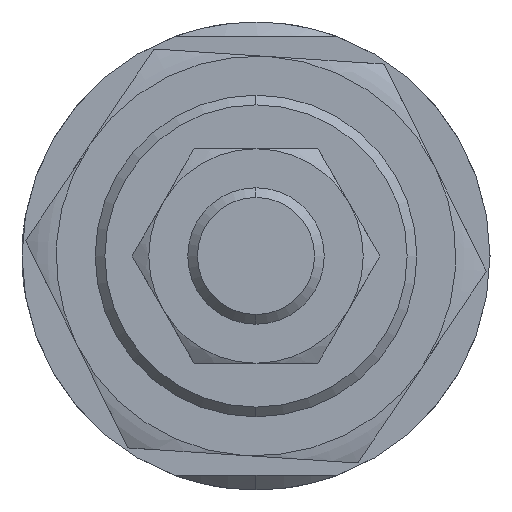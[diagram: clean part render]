
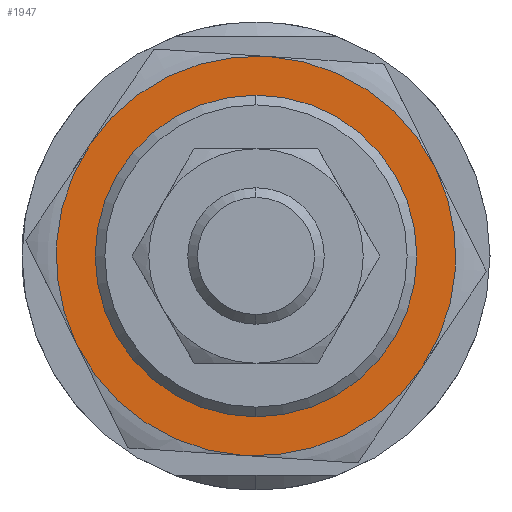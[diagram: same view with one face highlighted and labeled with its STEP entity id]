
A CAD part, left-side view. The second image highlights one B-rep face of the part: STEP entity #1947.
In plain terms, the highlighted planar face has unit normal (-1, 0, 0) as drawn and (0, 0, -1) by its records, which use the part's own axes.
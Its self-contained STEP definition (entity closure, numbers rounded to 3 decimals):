
#31 = VERTEX_POINT ( 'NONE', #1975 ) ;
#56 = ORIENTED_EDGE ( 'NONE', *, *, #1483, .F. ) ;
#87 = CARTESIAN_POINT ( 'NONE',  ( 0., 0., -5.5 ) ) ;
#126 = AXIS2_PLACEMENT_3D ( 'NONE', #1206, #3006, #1474 ) ;
#129 = CIRCLE ( 'NONE', #3128, 20.5 ) ;
#153 = DIRECTION ( 'NONE',  ( 1., 0., 0. ) ) ;
#167 = PLANE ( 'NONE',  #1503 ) ;
#296 = ORIENTED_EDGE ( 'NONE', *, *, #2409, .F. ) ;
#329 = ORIENTED_EDGE ( 'NONE', *, *, #1777, .T. ) ;
#364 = CARTESIAN_POINT ( 'NONE',  ( -10.25, 17.754, -5.5 ) ) ;
#488 = VERTEX_POINT ( 'NONE', #364 ) ;
#576 = EDGE_CURVE ( 'NONE', #2313, #852, #892, .T. ) ;
#670 = AXIS2_PLACEMENT_3D ( 'NONE', #1798, #2833, #735 ) ;
#681 = AXIS2_PLACEMENT_3D ( 'NONE', #2398, #1921, #2215 ) ;
#728 = VERTEX_POINT ( 'NONE', #2291 ) ;
#729 = AXIS2_PLACEMENT_3D ( 'NONE', #2136, #1626, #2148 ) ;
#735 = DIRECTION ( 'NONE',  ( 1., 0., 0. ) ) ;
#766 = CARTESIAN_POINT ( 'NONE',  ( -10.25, -17.754, -5.5 ) ) ;
#796 = CIRCLE ( 'NONE', #1245, 20.5 ) ;
#847 = DIRECTION ( 'NONE',  ( 0., 0., 1. ) ) ;
#852 = VERTEX_POINT ( 'NONE', #766 ) ;
#892 = CIRCLE ( 'NONE', #126, 20.5 ) ;
#893 = DIRECTION ( 'NONE',  ( 1., 0., 0. ) ) ;
#1038 = AXIS2_PLACEMENT_3D ( 'NONE', #2919, #2654, #1388 ) ;
#1081 = EDGE_CURVE ( 'NONE', #1299, #2029, #129, .T. ) ;
#1107 = EDGE_CURVE ( 'NONE', #728, #1299, #796, .T. ) ;
#1135 = CARTESIAN_POINT ( 'NONE',  ( 10.25, 17.754, -5.5 ) ) ;
#1182 = ORIENTED_EDGE ( 'NONE', *, *, #1926, .F. ) ;
#1190 = EDGE_LOOP ( 'NONE', ( #1829, #2385, #296, #2158, #1182, #56 ) ) ;
#1206 = CARTESIAN_POINT ( 'NONE',  ( 0., 0., -5.5 ) ) ;
#1245 = AXIS2_PLACEMENT_3D ( 'NONE', #2442, #3226, #893 ) ;
#1299 = VERTEX_POINT ( 'NONE', #2389 ) ;
#1324 = CARTESIAN_POINT ( 'NONE',  ( -15.5, 0., -5.5 ) ) ;
#1364 = CIRCLE ( 'NONE', #681, 15.5 ) ;
#1365 = FACE_OUTER_BOUND ( 'NONE', #1190, .T. ) ;
#1388 = DIRECTION ( 'NONE',  ( 1., 0., 0. ) ) ;
#1474 = DIRECTION ( 'NONE',  ( 1., 0., 0. ) ) ;
#1483 = EDGE_CURVE ( 'NONE', #2029, #488, #2492, .T. ) ;
#1503 = AXIS2_PLACEMENT_3D ( 'NONE', #1742, #3232, #3260 ) ;
#1584 = CIRCLE ( 'NONE', #3264, 20.5 ) ;
#1626 = DIRECTION ( 'NONE',  ( 0., 0., 1. ) ) ;
#1713 = VERTEX_POINT ( 'NONE', #1324 ) ;
#1742 = CARTESIAN_POINT ( 'NONE',  ( 0., 0., -5.5 ) ) ;
#1762 = ORIENTED_EDGE ( 'NONE', *, *, #3315, .T. ) ;
#1777 = EDGE_CURVE ( 'NONE', #1713, #31, #1364, .T. ) ;
#1798 = CARTESIAN_POINT ( 'NONE',  ( 0., 0., -5.5 ) ) ;
#1829 = ORIENTED_EDGE ( 'NONE', *, *, #1081, .F. ) ;
#1895 = DIRECTION ( 'NONE',  ( 0., 0., 1. ) ) ;
#1921 = DIRECTION ( 'NONE',  ( 0., 0., 1. ) ) ;
#1926 = EDGE_CURVE ( 'NONE', #488, #2313, #1584, .T. ) ;
#1947 = ADVANCED_FACE ( 'NONE', ( #3165, #1365 ), #167, .F. ) ;
#1975 = CARTESIAN_POINT ( 'NONE',  ( 15.5, 0., -5.5 ) ) ;
#2029 = VERTEX_POINT ( 'NONE', #1135 ) ;
#2136 = CARTESIAN_POINT ( 'NONE',  ( 0., 0., -5.5 ) ) ;
#2148 = DIRECTION ( 'NONE',  ( 1., 0., 0. ) ) ;
#2158 = ORIENTED_EDGE ( 'NONE', *, *, #576, .F. ) ;
#2215 = DIRECTION ( 'NONE',  ( 1., 0., 0. ) ) ;
#2244 = CARTESIAN_POINT ( 'NONE',  ( -20.5, 0., -5.5 ) ) ;
#2291 = CARTESIAN_POINT ( 'NONE',  ( 10.25, -17.754, -5.5 ) ) ;
#2313 = VERTEX_POINT ( 'NONE', #2244 ) ;
#2385 = ORIENTED_EDGE ( 'NONE', *, *, #1107, .F. ) ;
#2389 = CARTESIAN_POINT ( 'NONE',  ( 20.5, 0., -5.5 ) ) ;
#2398 = CARTESIAN_POINT ( 'NONE',  ( 0., 0., -5.5 ) ) ;
#2409 = EDGE_CURVE ( 'NONE', #852, #728, #2898, .T. ) ;
#2413 = DIRECTION ( 'NONE',  ( 1., 0., 0. ) ) ;
#2442 = CARTESIAN_POINT ( 'NONE',  ( 0., 0., -5.5 ) ) ;
#2492 = CIRCLE ( 'NONE', #729, 20.5 ) ;
#2636 = EDGE_LOOP ( 'NONE', ( #1762, #329 ) ) ;
#2654 = DIRECTION ( 'NONE',  ( 0., 0., 1. ) ) ;
#2833 = DIRECTION ( 'NONE',  ( 0., 0., 1. ) ) ;
#2863 = CIRCLE ( 'NONE', #1038, 15.5 ) ;
#2898 = CIRCLE ( 'NONE', #670, 20.5 ) ;
#2919 = CARTESIAN_POINT ( 'NONE',  ( 0., 0., -5.5 ) ) ;
#3006 = DIRECTION ( 'NONE',  ( 0., 0., 1. ) ) ;
#3128 = AXIS2_PLACEMENT_3D ( 'NONE', #87, #1895, #2413 ) ;
#3161 = CARTESIAN_POINT ( 'NONE',  ( 0., 0., -5.5 ) ) ;
#3165 = FACE_BOUND ( 'NONE', #2636, .T. ) ;
#3226 = DIRECTION ( 'NONE',  ( 0., 0., 1. ) ) ;
#3232 = DIRECTION ( 'NONE',  ( 0., 0., 1. ) ) ;
#3260 = DIRECTION ( 'NONE',  ( 1., 0., 0. ) ) ;
#3264 = AXIS2_PLACEMENT_3D ( 'NONE', #3161, #847, #153 ) ;
#3315 = EDGE_CURVE ( 'NONE', #31, #1713, #2863, .T. ) ;
